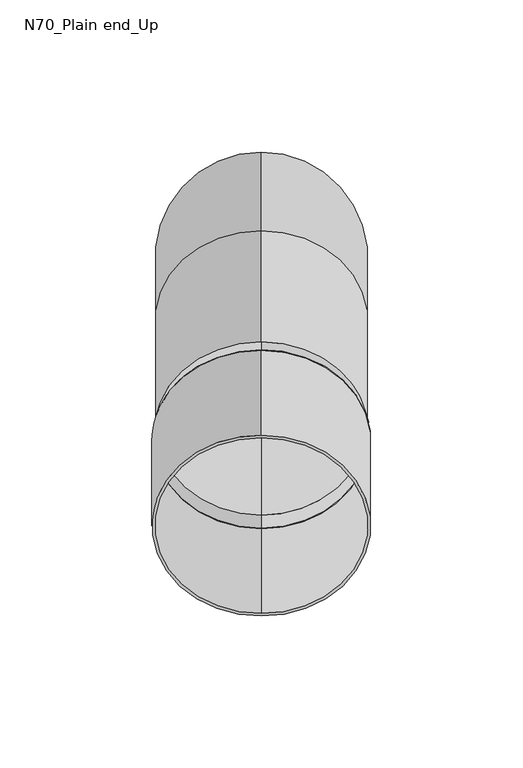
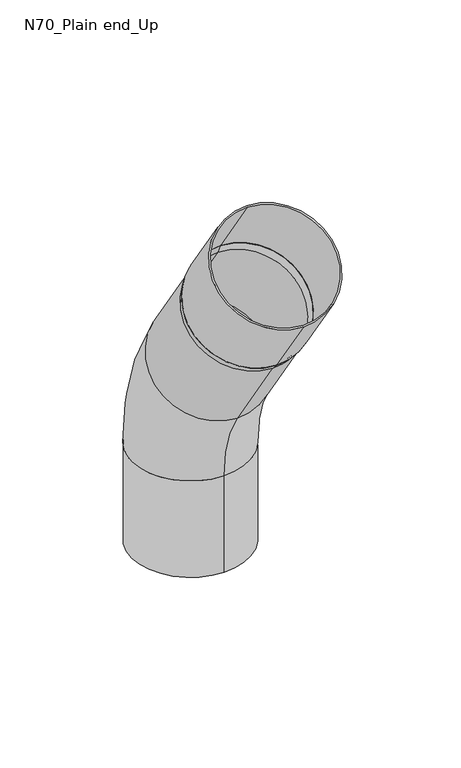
"""IFC4 building model written with IfcOpenShell, lengths in millimetres: proxy geometry, GROVIK_Downpipe_Adjustable offset : N70_Plain end_Up."""

from ifc_helpers import new_model, si_unit, point, frame, origin, origin_2d, place, context, project, spatial, polyline, circle_curve, ellipse_curve, trimmed, segment, composite_curve, outline, extrude, source, transform, mapped, element, save
from ifc_brep_helpers import plane_surface, cylinder_surface, revolved_surface, advanced_brep


def n70_plain_end_up_854b0d4a(model_context):
    return source(origin(), model_context, "Body", "SolidModel", [
        advanced_brep(
        [(0.0, -30.0939521, 143.6417872), (0.0, -89.6225553, 103.1406094), (0.0, -88.7957691, 103.7031257), (0.0, -30.9207383, 143.0792709), (0.0, -27.5456401, 138.1185539), (0.0, -85.420671, 98.7424088), (0.0, -28.3724263, 137.5560376), (0.0, -84.5938848, 99.3049252)],
        [
            (0, 1, circle_curve(frame((0.0, -59.8582537, 123.3911983), z_axis=(0.0, -0.562516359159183, 0.8267861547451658), x_axis=(0.0, 0.8267861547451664, 0.5625163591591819)), 36.0)),
            (1, 0, circle_curve(frame((0.0, -59.8582537, 123.3911983), z_axis=(0.0, -0.562516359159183, 0.8267861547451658), x_axis=(0.0, -0.8267861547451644, -0.5625163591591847)), 36.0)),
            (2, 3, circle_curve(frame((0.0, -59.8582537, 123.3911983), z_axis=(0.0, 0.562516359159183, -0.8267861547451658), x_axis=(0.0, 0.8267861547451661, 0.5625163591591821)), 35.0)),
            (3, 2, circle_curve(frame((0.0, -59.8582537, 123.3911983), z_axis=(0.0, 0.562516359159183, -0.8267861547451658), x_axis=(0.0, -0.826786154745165, -0.5625163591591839)), 35.0)),
            (4, 5, circle_curve(frame((0.0, -56.4831555, 118.4304814), z_axis=(0.0, 0.562516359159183, -0.8267861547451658), x_axis=(0.0, -0.8267861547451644, -0.5625163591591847)), 35.0)),
            (5, 4, circle_curve(frame((0.0, -56.4831555, 118.4304814), z_axis=(0.0, 0.562516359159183, -0.8267861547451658), x_axis=(0.0, 0.8267861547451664, 0.5625163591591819)), 35.0)),
            (6, 7, circle_curve(frame((0.0, -56.4831555, 118.4304814), z_axis=(0.0, -0.562516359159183, 0.8267861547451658), x_axis=(0.0, 0.8267861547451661, 0.5625163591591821)), 34.0)),
            (7, 6, circle_curve(frame((0.0, -56.4831555, 118.4304814), z_axis=(0.0, -0.562516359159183, 0.8267861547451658), x_axis=(0.0, -0.826786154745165, -0.5625163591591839)), 34.0)),
            (0, 4),
            (5, 1),
            (6, 3),
            (2, 7),
        ],
        [
            plane_surface(frame((0.0, -59.8582537, 123.3911983), z_axis=(0.0, -0.5625163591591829, 0.8267861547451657), x_axis=(-1.0, 0.0, 0.0))),
            plane_surface(frame((0.0, -56.4831555, 118.4304814), z_axis=(0.0, 0.562516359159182, -0.8267861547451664), x_axis=(-1.0, 0.0, 0.0))),
            revolved_surface(polyline([(0.0, -85.42067092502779, 98.74240876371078), (0.0, -89.62255530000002, 103.14060939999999)]), (0.0, 61.6452799, -55.1946111), (0.0, -0.562516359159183, 0.8267861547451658)),
            revolved_surface(polyline([(0.0, -27.5456400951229, 138.11855390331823), (0.0, -30.093952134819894, 143.64178727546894)]), (0.0, 61.6452799, -55.1946111), (0.0, -0.562516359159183, 0.8267861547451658)),
            revolved_surface(polyline([(0.0, -30.920738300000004, 143.0792709), (0.0, -28.372426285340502, 137.55603757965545)]), (0.0, 58.2701817, -50.2338942), (0.0, -0.562516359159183, 0.8267861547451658)),
        ],
        [
            (0, [[1, 2], [3, 4]]),
            (1, [[5, 6], [7, 8]]),
            (2, [[-1, 9, -6, 10]]),
            (3, [[-2, -10, -5, -9]]),
            (4, [[11, -3, 12, -7]]),
            (4, [[-11, -8, -12, -4]]),
        ],
    ),
        extrude(outline(composite_curve([segment(trimmed(circle_curve(origin_2d(), 36.0), [point((0.0, 36.0))], [point((0.0, -36.0))], False, "CARTESIAN"), True, "CONTINUOUS"), segment(trimmed(circle_curve(origin_2d(), 36.0), [point((0.0, -36.0))], [point((0.0, 36.0))], False, "CARTESIAN"), True, "CONTINUOUS")], self_intersect=False), holes=[composite_curve([segment(trimmed(circle_curve(origin_2d(), 35.0), [point((0.0, 35.0))], [point((0.0, -35.0))], True, "CARTESIAN"), True, "CONTINUOUS"), segment(trimmed(circle_curve(origin_2d(), 35.0), [point((0.0, -35.0))], [point((0.0, 35.0))], True, "CARTESIAN"), True, "CONTINUOUS")], self_intersect=False)]), frame((0.0, -59.8582537, 123.3911983), z_axis=(0.0, -0.5625163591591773, 0.8267861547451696), x_axis=(1.0, 0.0, 0.0)), (0.0, 0.0, 1.0), 50.0),
        advanced_brep(
        [(0.0, 35.0, -61.0), (0.0, -35.0, -61.0), (0.0, 34.0, -61.0), (0.0, -34.0, -61.0), (0.0, 35.0, 0.0), (0.0, -35.0, 0.0), (0.0, 34.0, 0.0), (0.0, -34.0, 0.0), (0.0, -48.8571076, 45.0013087), (0.0, 9.0179232, 84.3774539), (0.0, -48.0303215, 45.5638251), (0.0, 8.1911371, 83.8149375), (0.0, -27.5456401, 138.1185539), (0.0, -85.420671, 98.7424088), (0.0, -28.3724263, 137.5560376), (0.0, -84.5938848, 99.3049252)],
        [
            (0, 1, circle_curve(frame((0.0, 0.0, -61.0), z_axis=(0.0, 0.0, -1.0), x_axis=(0.0, -1.0, 0.0)), 35.0)),
            (1, 0, circle_curve(frame((0.0, 0.0, -61.0), z_axis=(0.0, 0.0, -1.0), x_axis=(0.0, -1.0, 0.0)), 35.0)),
            (2, 3, circle_curve(frame((0.0, 0.0, -61.0), z_axis=(0.0, 0.0, 1.0), x_axis=(0.0, -1.0, 0.0)), 34.0)),
            (3, 2, circle_curve(frame((0.0, 0.0, -61.0), z_axis=(0.0, 0.0, 1.0), x_axis=(0.0, -1.0, 0.0)), 34.0)),
            (0, 4),
            (4, 5, circle_curve(frame((0.0, 0.0, 0.0), z_axis=(0.0, 0.0, -1.0), x_axis=(0.0, -1.0, 0.0)), 35.0)),
            (5, 1),
            (5, 4, circle_curve(frame((0.0, 0.0, 0.0), z_axis=(0.0, 0.0, -1.0), x_axis=(0.0, -1.0, 0.0)), 35.0)),
            (2, 6),
            (6, 7, circle_curve(frame((0.0, 0.0, 0.0), z_axis=(0.0, 0.0, 1.0), x_axis=(0.0, -1.0, 0.0)), 34.0)),
            (7, 3),
            (7, 6, circle_curve(frame((0.0, 0.0, 0.0), z_axis=(0.0, 0.0, 1.0), x_axis=(0.0, -1.0, 0.0)), 34.0)),
            (8, 5, circle_curve(frame((0.0, -115.0, 0.0), z_axis=(-1.0, 0.0, 0.0), x_axis=(0.0, 1.0, 0.0)), 80.0)),
            (4, 9, circle_curve(frame((0.0, -115.0, 0.0), z_axis=(1.0, 0.0, 0.0), x_axis=(0.0, 1.0, 0.0)), 150.0)),
            (9, 8, circle_curve(frame((0.0, -19.9195922, 64.6893813), z_axis=(0.0, 0.562516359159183, -0.8267861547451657), x_axis=(0.0, -0.8267861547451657, -0.562516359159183)), 35.0)),
            (8, 9, circle_curve(frame((0.0, -19.9195922, 64.6893813), z_axis=(0.0, 0.5625163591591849, -0.8267861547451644), x_axis=(0.0, -0.8267861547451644, -0.5625163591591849)), 35.0)),
            (10, 7, circle_curve(frame((0.0, -115.0, 0.0), z_axis=(-1.0, 0.0, 0.0), x_axis=(0.0, 1.0, 0.0)), 81.0)),
            (6, 11, circle_curve(frame((0.0, -115.0, 0.0), z_axis=(1.0, 0.0, 0.0), x_axis=(0.0, 1.0, 0.0)), 149.0)),
            (11, 10, circle_curve(frame((0.0, -19.9195922, 64.6893813), z_axis=(0.0, -0.5625163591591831, 0.8267861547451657), x_axis=(0.0, -0.8267861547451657, -0.5625163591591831)), 34.0)),
            (10, 11, circle_curve(frame((0.0, -19.9195922, 64.6893813), z_axis=(0.0, -0.5625163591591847, 0.8267861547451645), x_axis=(0.0, -0.8267861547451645, -0.5625163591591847)), 34.0)),
            (12, 13, circle_curve(frame((0.0, -56.4831555, 118.4304814), z_axis=(0.0, -0.5625163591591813, 0.8267861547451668), x_axis=(0.0, -0.8267861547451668, -0.5625163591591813)), 35.0)),
            (13, 12, circle_curve(frame((0.0, -56.4831555, 118.4304814), z_axis=(0.0, -0.5625163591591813, 0.8267861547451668), x_axis=(0.0, -0.8267861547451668, -0.5625163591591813)), 35.0)),
            (14, 15, circle_curve(frame((0.0, -56.4831555, 118.4304814), z_axis=(0.0, 0.5625163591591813, -0.8267861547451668), x_axis=(0.0, -0.8267861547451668, -0.5625163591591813)), 34.0)),
            (15, 14, circle_curve(frame((0.0, -56.4831555, 118.4304814), z_axis=(0.0, 0.5625163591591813, -0.8267861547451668), x_axis=(0.0, -0.8267861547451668, -0.5625163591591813)), 34.0)),
            (9, 12),
            (13, 8),
            (11, 14),
            (15, 10),
        ],
        [
            plane_surface(frame((0.0, 0.0, -61.0), z_axis=(0.0, 0.0, -1.0), x_axis=(1.0, 0.0, 0.0))),
            cylinder_surface(frame((0.0, 0.0, -61.0), z_axis=(0.0, 0.0, -1.0), x_axis=(0.0, -1.0, 0.0)), 35.0),
            revolved_surface(polyline([(0.0, -34.0, 0.0), (0.0, -34.0, -61.0)]), (0.0, 0.0, -61.0), (0.0, 0.0, 1.0)),
            revolved_surface(trimmed(ellipse_curve(frame((0.0, 0.0, 0.0), z_axis=(0.0, 0.0, -1.0), x_axis=(0.0, -1.0, 0.0)), 35.0, 35.0), [point((0.0, 35.0, 0.0))], [point((0.0, -35.0, 0.0))], True, "CARTESIAN"), (0.0, -115.0, 0.0), (1.0, 0.0, 0.0)),
            revolved_surface(trimmed(ellipse_curve(frame((0.0, 0.0, 0.0), z_axis=(0.0, 0.0, -1.0), x_axis=(0.0, -1.0, 0.0)), 35.0, 35.0), [point((0.0, -35.0, 0.0))], [point((0.0, 35.0, 0.0))], True, "CARTESIAN"), (0.0, -115.0, 0.0), (1.0, 0.0, 0.0)),
            revolved_surface(trimmed(ellipse_curve(frame((0.0, 0.0, 0.0), z_axis=(0.0, 0.0, 1.0), x_axis=(0.0, -1.0, 0.0)), 34.0, 34.0), [point((0.0, 34.0, 0.0))], [point((0.0, -34.0, 0.0))], True, "CARTESIAN"), (0.0, -115.0, 0.0), (1.0, 0.0, 0.0)),
            revolved_surface(trimmed(ellipse_curve(frame((0.0, 0.0, 0.0), z_axis=(0.0, 0.0, 1.0), x_axis=(0.0, -1.0, 0.0)), 34.0, 34.0), [point((0.0, -34.0, 0.0))], [point((0.0, 34.0, 0.0))], True, "CARTESIAN"), (0.0, -115.0, 0.0), (1.0, 0.0, 0.0)),
            plane_surface(frame((0.0, -56.4831555, 118.4304814), z_axis=(0.0, -0.5625163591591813, 0.8267861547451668), x_axis=(1.0, 0.0, 0.0))),
            cylinder_surface(frame((0.0, -19.9195922, 64.6893813), z_axis=(0.0, 0.5625163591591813, -0.8267861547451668), x_axis=(0.0, -0.8267861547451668, -0.5625163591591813)), 35.0),
            revolved_surface(polyline([(0.0, -84.59388482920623, 99.3049251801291), (0.0, -48.03032144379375, 45.563825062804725)]), (0.0, -19.9195922, 64.6893813), (0.0, -0.5625163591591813, 0.8267861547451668)),
        ],
        [
            (0, [[1, 2], [3, 4]]),
            (1, [[-1, 5, 6, 7]]),
            (1, [[-2, -7, 8, -5]]),
            (2, [[-3, 9, 10, 11]]),
            (2, [[-4, -11, 12, -9]]),
            (3, [[13, -6, 14, 15]]),
            (4, [[-14, -8, -13, 16]]),
            (5, [[17, -10, 18, 19]]),
            (6, [[-18, -12, -17, 20]]),
            (7, [[21, 22], [23, 24]]),
            (8, [[-15, 25, -22, 26]]),
            (8, [[-16, -26, -21, -25]]),
            (9, [[-19, 27, -24, 28]]),
            (9, [[-20, -28, -23, -27]]),
        ],
    ),
    ])


if __name__ == "__main__":
    model = new_model("IFC4")
    model_context = context("Model", 3, world=origin())
    ifc_project = project(units=[si_unit("LENGTHUNIT", "METRE", prefix="MILLI")], contexts=[model_context])
    site = spatial("IfcSite", under=ifc_project)
    building = spatial("IfcBuilding", under=site)
    placement = place(None, origin())
    n70_plain_end_up_shape = n70_plain_end_up_854b0d4a(model_context)
    element("IfcBuildingElementProxy", 1, Name="GROVIK_Downpipe_Adjustable offset : N70_Plain end_Up", ObjectType="GROVIK_Downpipe_Adjustable offset : N70_Plain end_Up", at=placement, inside=building, context=model_context, shape_type="MappedRepresentation", body=[
        mapped(n70_plain_end_up_shape, transform((0.0, 0.0, 0.0), x_axis=(1.0, 0.0, 0.0), y_axis=(0.0, 1.0, 0.0), z_axis=(0.0, 0.0, 1.0))),
    ])
    save(model, "model.ifc")
